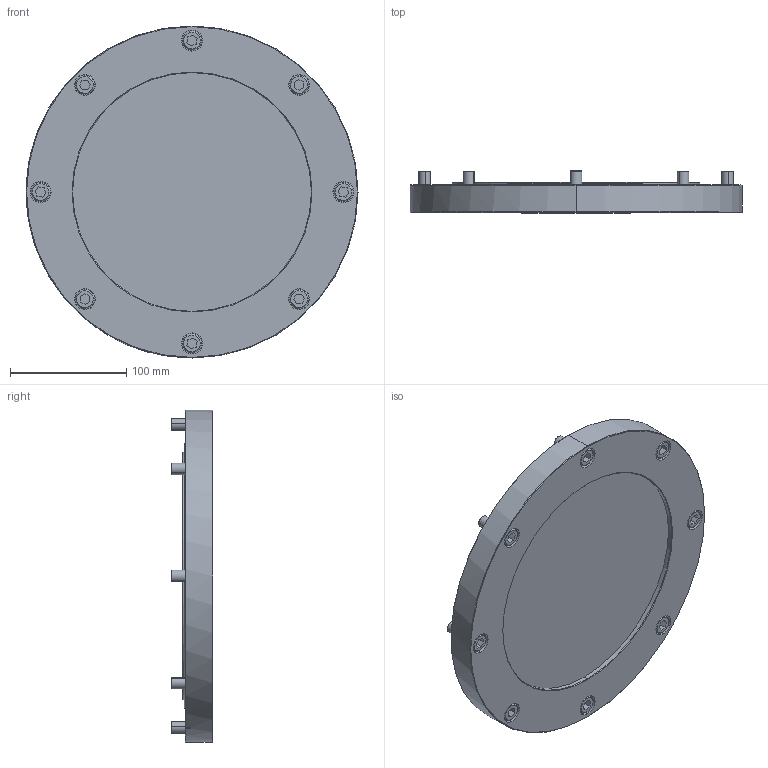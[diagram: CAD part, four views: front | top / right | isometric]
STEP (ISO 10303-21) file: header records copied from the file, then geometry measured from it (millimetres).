
FILE_DESCRIPTION (( 'STEP AP214' ), '1' );
FILE_NAME ('JK200-G-A-V-200503.STEP', '2020-05-03T05:36:59', ( '' ), ( '' ), 'SwSTEP 2.0', 'SolidWorks 2018', '' );
FILE_SCHEMA (( 'AUTOMOTIVE_DESIGN' ));
Length unit declared in the file: millimetre
Products named in the file (6): JK200-02B; JK200-03F; JK200-G-A-V-200503; COM-001-M10-25_ル遽; JK200-04B; JK200-01E
Assembly tree (12 placements, depth 2):
  JK200-G-A-V-200503
    JK200-03F
    JK200-04B
    JK200-01E
    JK200-02B
    COM-001-M10-25_ル遽  x8
Bounding box: 285 x 35.6 x 285 mm (x, y, z)
Volume: 1214651.3 mm3; surface area: 247065.4 mm2
Topology: 12 solids, 12 shells, 261 faces, 574 edges, 362 vertices
Faces by surface type: plane 101, cylinder 82, cone 49, torus 29
Entity records: 4340 total; most frequent: CARTESIAN_POINT 830, DIRECTION 764, ORIENTED_EDGE 616, AXIS2_PLACEMENT_3D 334, EDGE_CURVE 308, VERTEX_POINT 194, CIRCLE 184, EDGE_LOOP 168
